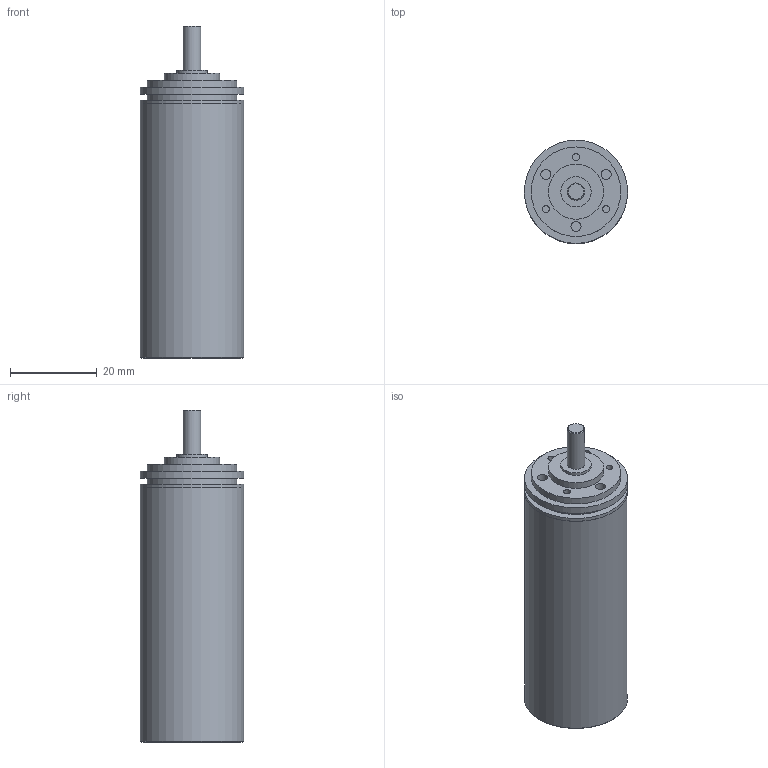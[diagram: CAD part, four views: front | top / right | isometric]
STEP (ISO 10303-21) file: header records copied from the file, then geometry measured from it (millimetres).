
FILE_DESCRIPTION(/* description */ (''),/* implementation_level */ '2;1');
FILE_NAME(/* name */ '22-2_9.stp',/* time_stamp */ '2016-08-26T11:18:46+02:00',/* author */ ('DR. FRITZ FAULHABER GmbH & Co. KG'),/* organization */ ('DR. FRITZ FAULHABER GmbH & Co. KG'),/* preprocessor_version */ 'ST-DEVELOPER v16',/* originating_system */ 'SIEMENS PLM Software NX 10.0',/* authorisation */ '');
FILE_SCHEMA (('AUTOMOTIVE_DESIGN { 1 0 10303 214 3 1 1 1 }'));
Length unit declared in the file: millimetre
Products named in the file (1): H00000859_A
Bounding box: 23.8 x 23.8 x 76.5 mm (x, y, z)
Volume: 20573 mm3; surface area: 7746.3 mm2
Topology: 1 solids, 1 shells, 42 faces, 65 edges, 43 vertices
Faces by surface type: plane 20, cylinder 19, cone 3
Full cylindrical faces by diameter (mm): 1.6 x3, 2.329 x3, 3.5 x1, 4 x1, 4.5 x1, 7 x2, 12.7 x1, 20.63 x2, 22 x1, 23.79 x1, 23.8 x3
Entity records: 858 total; most frequent: DIRECTION 168, CARTESIAN_POINT 125, AXIS2_PLACEMENT_3D 84, EDGE_LOOP 82, ORIENTED_EDGE 82, FACE_BOUND 74, ADVANCED_FACE 42, VERTEX_POINT 41
